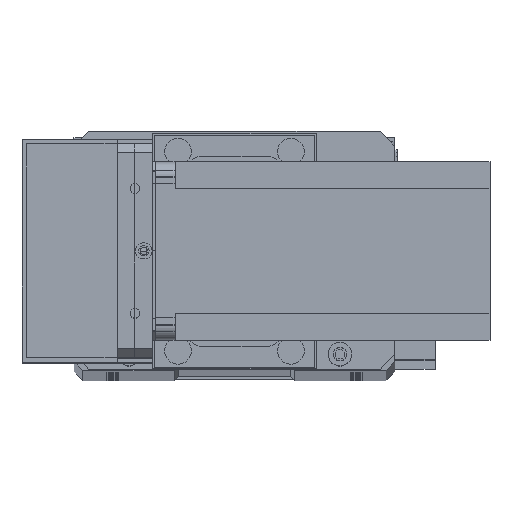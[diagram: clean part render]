
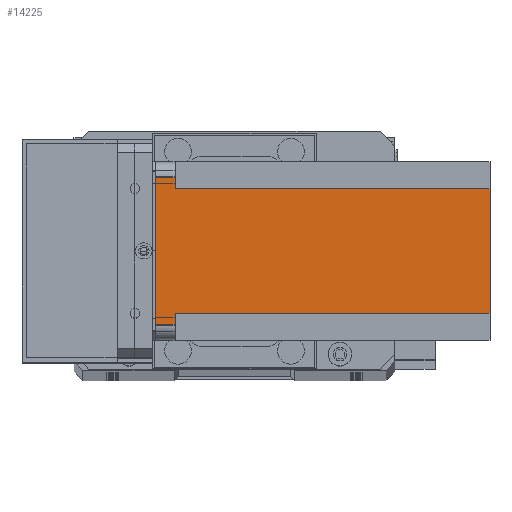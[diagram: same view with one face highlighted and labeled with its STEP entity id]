
A CAD part, top view. The second image highlights one B-rep face of the part: STEP entity #14225.
In plain terms, the highlighted planar face has unit normal (0, 0, 1) as drawn and (1, 0, 0) by its records, which use the part's own axes.
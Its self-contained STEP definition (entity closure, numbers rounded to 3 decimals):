
#191 = CARTESIAN_POINT ( 'NONE',  ( 60., 55., 0. ) ) ;
#1224 = AXIS2_PLACEMENT_3D ( 'NONE', #23657, #26140, #11122 ) ;
#1652 = ORIENTED_EDGE ( 'NONE', *, *, #20827, .F. ) ;
#1728 = VERTEX_POINT ( 'NONE', #21456 ) ;
#1972 = CARTESIAN_POINT ( 'NONE',  ( 60., 55., -6.5 ) ) ;
#2815 = ORIENTED_EDGE ( 'NONE', *, *, #27557, .T. ) ;
#3395 = LINE ( 'NONE', #15593, #10108 ) ;
#3623 = LINE ( 'NONE', #4800, #16999 ) ;
#3671 = LINE ( 'NONE', #24471, #16243 ) ;
#4126 = VECTOR ( 'NONE', #7925, 1000. ) ;
#4144 = VECTOR ( 'NONE', #15478, 1000. ) ;
#4433 = LINE ( 'NONE', #11056, #5208 ) ;
#4800 = CARTESIAN_POINT ( 'NONE',  ( 60., 9., -112.5 ) ) ;
#4971 = VECTOR ( 'NONE', #32145, 1000. ) ;
#5208 = VECTOR ( 'NONE', #28599, 1000. ) ;
#5603 = VERTEX_POINT ( 'NONE', #11572 ) ;
#5759 = LINE ( 'NONE', #19678, #4971 ) ;
#6043 = PLANE ( 'NONE',  #1224 ) ;
#6082 = FACE_OUTER_BOUND ( 'NONE', #19448, .T. ) ;
#6870 = DIRECTION ( 'NONE',  ( 0., -1., 0. ) ) ;
#7925 = DIRECTION ( 'NONE',  ( 0., 1., 0. ) ) ;
#8918 = CARTESIAN_POINT ( 'NONE',  ( 60., 5., -112.5 ) ) ;
#10108 = VECTOR ( 'NONE', #25496, 1000. ) ;
#11056 = CARTESIAN_POINT ( 'NONE',  ( 60., 0., 0. ) ) ;
#11122 = DIRECTION ( 'NONE',  ( 0., 1., 0. ) ) ;
#11430 = DIRECTION ( 'NONE',  ( 0., 0., -1. ) ) ;
#11572 = CARTESIAN_POINT ( 'NONE',  ( 60., 51., -112.5 ) ) ;
#12410 = EDGE_CURVE ( 'NONE', #30539, #5603, #5759, .T. ) ;
#14079 = EDGE_CURVE ( 'NONE', #1728, #5603, #16699, .T. ) ;
#14164 = ORIENTED_EDGE ( 'NONE', *, *, #14079, .T. ) ;
#14225 = ADVANCED_FACE ( 'NONE', ( #6082 ), #6043, .T. ) ;
#15478 = DIRECTION ( 'NONE',  ( 0., -1., 0. ) ) ;
#15501 = CARTESIAN_POINT ( 'NONE',  ( 60., 5., -6.5 ) ) ;
#15593 = CARTESIAN_POINT ( 'NONE',  ( 60., 55., -112.5 ) ) ;
#16243 = VECTOR ( 'NONE', #6870, 1000. ) ;
#16248 = ORIENTED_EDGE ( 'NONE', *, *, #31324, .F. ) ;
#16699 = LINE ( 'NONE', #25514, #4126 ) ;
#16999 = VECTOR ( 'NONE', #19865, 1000. ) ;
#19407 = ORIENTED_EDGE ( 'NONE', *, *, #30897, .F. ) ;
#19448 = EDGE_LOOP ( 'NONE', ( #19407, #31364, #16248, #2815, #31099, #1652, #14164, #25536 ) ) ;
#19678 = CARTESIAN_POINT ( 'NONE',  ( 60., 51., -112.5 ) ) ;
#19865 = DIRECTION ( 'NONE',  ( 0., 0., 1. ) ) ;
#20003 = VECTOR ( 'NONE', #11430, 1000. ) ;
#20050 = VERTEX_POINT ( 'NONE', #29100 ) ;
#20636 = CARTESIAN_POINT ( 'NONE',  ( 60., 51., -6.5 ) ) ;
#20827 = EDGE_CURVE ( 'NONE', #1728, #26175, #3623, .T. ) ;
#21456 = CARTESIAN_POINT ( 'NONE',  ( 60., 9., -112.5 ) ) ;
#22233 = CARTESIAN_POINT ( 'NONE',  ( 60., 9., -6.5 ) ) ;
#22513 = EDGE_CURVE ( 'NONE', #26175, #29908, #31614, .T. ) ;
#22955 = VERTEX_POINT ( 'NONE', #1972 ) ;
#23657 = CARTESIAN_POINT ( 'NONE',  ( 60., 0., -112.5 ) ) ;
#23908 = VERTEX_POINT ( 'NONE', #191 ) ;
#24471 = CARTESIAN_POINT ( 'NONE',  ( 60., 60., -6.5 ) ) ;
#25496 = DIRECTION ( 'NONE',  ( 0., 0., 1. ) ) ;
#25514 = CARTESIAN_POINT ( 'NONE',  ( 60., 0., -112.5 ) ) ;
#25536 = ORIENTED_EDGE ( 'NONE', *, *, #12410, .F. ) ;
#26140 = DIRECTION ( 'NONE',  ( 1., 0., 0. ) ) ;
#26175 = VERTEX_POINT ( 'NONE', #22233 ) ;
#26671 = LINE ( 'NONE', #8918, #20003 ) ;
#27557 = EDGE_CURVE ( 'NONE', #20050, #29908, #26671, .T. ) ;
#28599 = DIRECTION ( 'NONE',  ( 0., 1., 0. ) ) ;
#29100 = CARTESIAN_POINT ( 'NONE',  ( 60., 5., 0. ) ) ;
#29212 = EDGE_CURVE ( 'NONE', #22955, #23908, #3395, .T. ) ;
#29908 = VERTEX_POINT ( 'NONE', #15501 ) ;
#30514 = CARTESIAN_POINT ( 'NONE',  ( 60., 0., -6.5 ) ) ;
#30539 = VERTEX_POINT ( 'NONE', #20636 ) ;
#30897 = EDGE_CURVE ( 'NONE', #22955, #30539, #3671, .T. ) ;
#31099 = ORIENTED_EDGE ( 'NONE', *, *, #22513, .F. ) ;
#31324 = EDGE_CURVE ( 'NONE', #20050, #23908, #4433, .T. ) ;
#31364 = ORIENTED_EDGE ( 'NONE', *, *, #29212, .T. ) ;
#31614 = LINE ( 'NONE', #30514, #4144 ) ;
#32145 = DIRECTION ( 'NONE',  ( 0., 0., -1. ) ) ;
